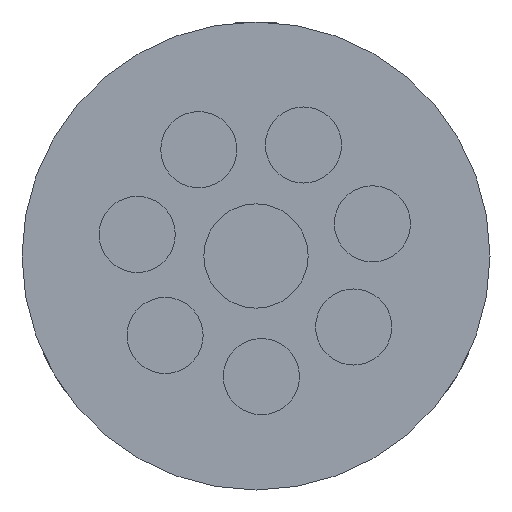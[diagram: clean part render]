
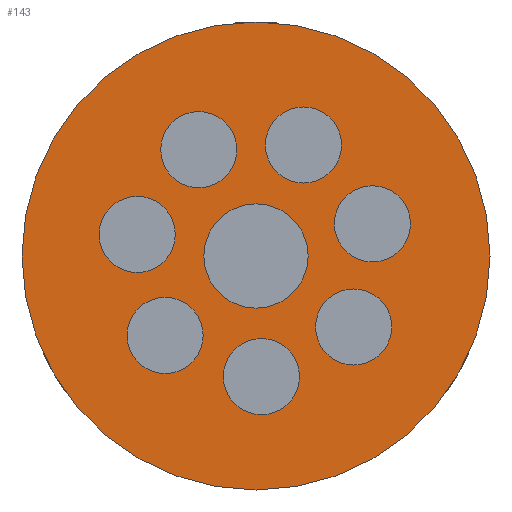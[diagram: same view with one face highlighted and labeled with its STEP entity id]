
A CAD part, front view. The second image highlights one B-rep face of the part: STEP entity #143.
In plain terms, the highlighted planar face has unit normal (0, -1, 0).
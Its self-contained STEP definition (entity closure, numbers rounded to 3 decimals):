
#143 = ADVANCED_FACE( '', ( #332, #333, #334, #335, #336, #337, #338, #339, #340 ), #341, .F. );
#332 = FACE_BOUND( '', #569, .T. );
#333 = FACE_BOUND( '', #570, .T. );
#334 = FACE_BOUND( '', #571, .T. );
#335 = FACE_BOUND( '', #572, .T. );
#336 = FACE_BOUND( '', #573, .T. );
#337 = FACE_BOUND( '', #574, .T. );
#338 = FACE_BOUND( '', #575, .T. );
#339 = FACE_BOUND( '', #576, .T. );
#340 = FACE_OUTER_BOUND( '', #577, .T. );
#341 = PLANE( '', #578 );
#569 = EDGE_LOOP( '', ( #876 ) );
#570 = EDGE_LOOP( '', ( #877 ) );
#571 = EDGE_LOOP( '', ( #878 ) );
#572 = EDGE_LOOP( '', ( #879 ) );
#573 = EDGE_LOOP( '', ( #880 ) );
#574 = EDGE_LOOP( '', ( #881 ) );
#575 = EDGE_LOOP( '', ( #882 ) );
#576 = EDGE_LOOP( '', ( #883 ) );
#577 = EDGE_LOOP( '', ( #884 ) );
#578 = AXIS2_PLACEMENT_3D( '', #885, #886, #887 );
#876 = ORIENTED_EDGE( '', *, *, #1179, .F. );
#877 = ORIENTED_EDGE( '', *, *, #1134, .F. );
#878 = ORIENTED_EDGE( '', *, *, #1175, .F. );
#879 = ORIENTED_EDGE( '', *, *, #1180, .F. );
#880 = ORIENTED_EDGE( '', *, *, #1155, .F. );
#881 = ORIENTED_EDGE( '', *, *, #1181, .F. );
#882 = ORIENTED_EDGE( '', *, *, #1139, .F. );
#883 = ORIENTED_EDGE( '', *, *, #1149, .F. );
#884 = ORIENTED_EDGE( '', *, *, #1182, .T. );
#885 = CARTESIAN_POINT( '', ( 29.2, -8.8, 0. ) );
#886 = DIRECTION( '', ( 0., 1., 0. ) );
#887 = DIRECTION( '', ( 0., 0., 1. ) );
#1134 = EDGE_CURVE( '', #1297, #1297, #1298, .F. );
#1139 = EDGE_CURVE( '', #1305, #1305, #1306, .T. );
#1149 = EDGE_CURVE( '', #1322, #1322, #1323, .T. );
#1155 = EDGE_CURVE( '', #1330, #1330, #1331, .T. );
#1175 = EDGE_CURVE( '', #1362, #1362, #1363, .T. );
#1179 = EDGE_CURVE( '', #1368, #1368, #1369, .T. );
#1180 = EDGE_CURVE( '', #1370, #1370, #1371, .T. );
#1181 = EDGE_CURVE( '', #1372, #1372, #1373, .T. );
#1182 = EDGE_CURVE( '', #1374, #1374, #1375, .T. );
#1297 = VERTEX_POINT( '', #1514 );
#1298 = CIRCLE( '', #1515, 4.75 );
#1305 = VERTEX_POINT( '', #1522 );
#1306 = CIRCLE( '', #1523, 4.75 );
#1322 = VERTEX_POINT( '', #1541 );
#1323 = CIRCLE( '', #1542, 4.75 );
#1330 = VERTEX_POINT( '', #1551 );
#1331 = CIRCLE( '', #1552, 4.75 );
#1362 = VERTEX_POINT( '', #1585 );
#1363 = CIRCLE( '', #1586, 4.75 );
#1368 = VERTEX_POINT( '', #1591 );
#1369 = CIRCLE( '', #1592, 6.5 );
#1370 = VERTEX_POINT( '', #1593 );
#1371 = CIRCLE( '', #1594, 4.75 );
#1372 = VERTEX_POINT( '', #1595 );
#1373 = CIRCLE( '', #1596, 4.75 );
#1374 = VERTEX_POINT( '', #1597 );
#1375 = CIRCLE( '', #1598, 29.2 );
#1514 = CARTESIAN_POINT( '', ( 14.524, -8.8, 8.76 ) );
#1515 = AXIS2_PLACEMENT_3D( '', #1742, #1743, #1744 );
#1522 = CARTESIAN_POINT( '', ( 0.675, -8.8, -19.802 ) );
#1523 = AXIS2_PLACEMENT_3D( '', #1751, #1752, #1753 );
#1541 = CARTESIAN_POINT( '', ( 12.189, -8.8, -13.607 ) );
#1542 = AXIS2_PLACEMENT_3D( '', #1768, #1769, #1770 );
#1551 = CARTESIAN_POINT( '', ( -14.825, -8.8, -2.059 ) );
#1552 = AXIS2_PLACEMENT_3D( '', #1776, #1777, #1778 );
#1585 = CARTESIAN_POINT( '', ( 5.923, -8.8, 9.104 ) );
#1586 = AXIS2_PLACEMENT_3D( '', #1811, #1812, #1813 );
#1591 = CARTESIAN_POINT( '', ( 0., -8.8, -6.5 ) );
#1592 = AXIS2_PLACEMENT_3D( '', #1817, #1818, #1819 );
#1593 = CARTESIAN_POINT( '', ( -7.139, -8.8, 8.519 ) );
#1594 = AXIS2_PLACEMENT_3D( '', #1820, #1821, #1822 );
#1595 = CARTESIAN_POINT( '', ( -11.347, -8.8, -14.662 ) );
#1596 = AXIS2_PLACEMENT_3D( '', #1823, #1824, #1825 );
#1597 = CARTESIAN_POINT( '', ( 0., -8.8, -29.2 ) );
#1598 = AXIS2_PLACEMENT_3D( '', #1826, #1827, #1828 );
#1742 = CARTESIAN_POINT( '', ( 14.524, -8.8, 4.01 ) );
#1743 = DIRECTION( '', ( 0., 1., 0. ) );
#1744 = DIRECTION( '', ( 0., 0., 1. ) );
#1751 = CARTESIAN_POINT( '', ( 0.675, -8.8, -15.052 ) );
#1752 = DIRECTION( '', ( 0., -1., 0. ) );
#1753 = DIRECTION( '', ( 0., 0., -1. ) );
#1768 = CARTESIAN_POINT( '', ( 12.189, -8.8, -8.857 ) );
#1769 = DIRECTION( '', ( 0., -1., 0. ) );
#1770 = DIRECTION( '', ( 0., 0., -1. ) );
#1776 = CARTESIAN_POINT( '', ( -14.825, -8.8, 2.691 ) );
#1777 = DIRECTION( '', ( 0., -1., 0. ) );
#1778 = DIRECTION( '', ( 0., 0., -1. ) );
#1811 = CARTESIAN_POINT( '', ( 5.923, -8.8, 13.854 ) );
#1812 = DIRECTION( '', ( 0., -1., 0. ) );
#1813 = DIRECTION( '', ( 0., 0., -1. ) );
#1817 = CARTESIAN_POINT( '', ( 0., -8.8, 0. ) );
#1818 = DIRECTION( '', ( 0., -1., 0. ) );
#1819 = DIRECTION( '', ( 0., 0., -1. ) );
#1820 = CARTESIAN_POINT( '', ( -7.139, -8.8, 13.269 ) );
#1821 = DIRECTION( '', ( 0., -1., 0. ) );
#1822 = DIRECTION( '', ( 0., 0., -1. ) );
#1823 = CARTESIAN_POINT( '', ( -11.347, -8.8, -9.912 ) );
#1824 = DIRECTION( '', ( 0., -1., 0. ) );
#1825 = DIRECTION( '', ( 0., 0., -1. ) );
#1826 = CARTESIAN_POINT( '', ( 0., -8.8, 0. ) );
#1827 = DIRECTION( '', ( 0., -1., 0. ) );
#1828 = DIRECTION( '', ( 0., 0., -1. ) );
